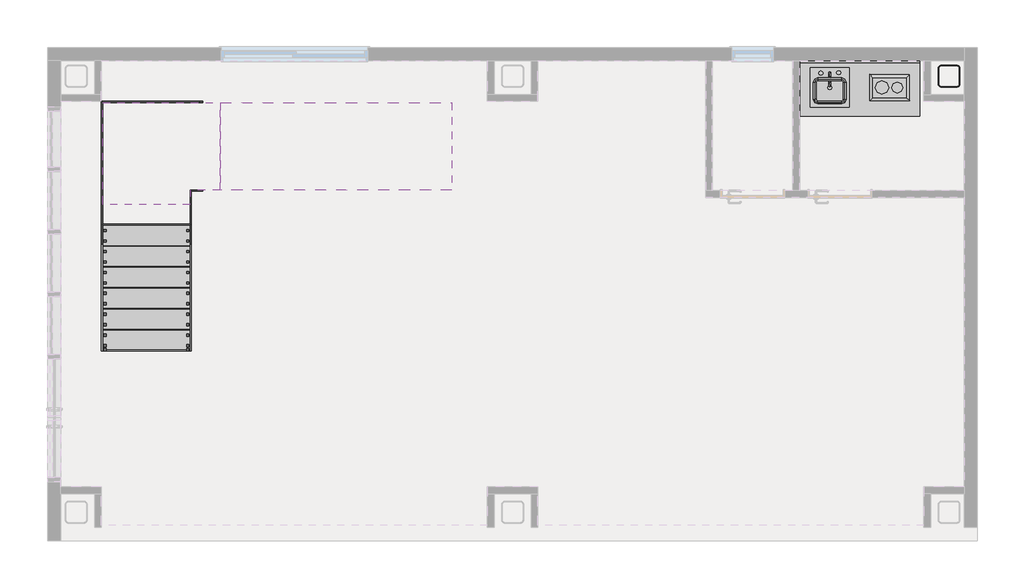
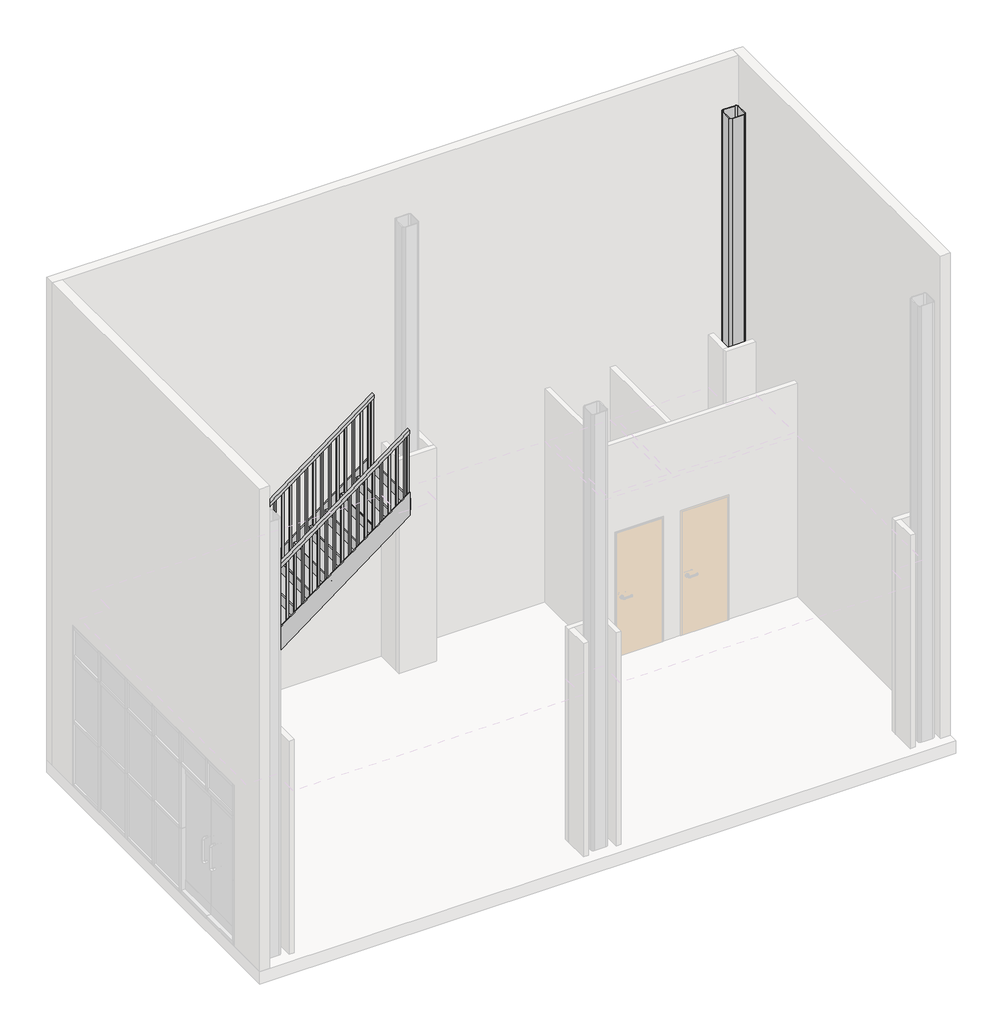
# One storey, part 2 of 2: 7 members, 2 proxies, 2 railings, 2 stair flights, 1 column, 1 flow terminal, 1 furniture element, 1 slab.
"""IFC4 building model written with IfcOpenShell, lengths in millimetres."""

from ifc_helpers import new_model, si_unit, frame, origin, place, context, project, spatial, polyline, outline, extrude, faceted_brep, transform, mapped, element, save
from components import proxy_1372mm_902c12d3, proxy_305_x_457mm_75991893, hss250x250x12_d809ddac, flow_terminal_450_x_450mm_65598b4f, furniture_600mm_61525606, slab_593adf1e, stair_flight_b28b8e51, stair_flight_15dfc8d3

model = new_model("IFC4")

# Units and contexts
model_context = context("Model", 3, world=origin())
ifc_project = project(units=[si_unit("LENGTHUNIT", "METRE", prefix="MILLI")], contexts=[model_context])

# Site, building, storey
site = spatial("IfcSite", under=ifc_project)
building = spatial("IfcBuilding", under=site)
storey = spatial("IfcBuildingStorey", under=building, Name="1階", Elevation=200.0)

# Proxies
placement = place(None, origin())
proxy_1372mm_shape = proxy_1372mm_902c12d3(model_context)
element("IfcBuildingElementProxy", 1, Name="システムキッチン - スケール(小) - 3D : 1372mm", ObjectType="システムキッチン - スケール(小) - 3D : 1372mm", at=placement, inside=storey, context=model_context, shape_type="MappedRepresentation", body=[
    mapped(proxy_1372mm_shape, transform((3909.3742386, 2761.0382733, 200.0), x_axis=(1.0, 0.0, 0.0), y_axis=(0.0, 1.0, 0.0), z_axis=(0.0, 0.0, 1.0))),
])
proxy_305_x_457mm_shape = proxy_305_x_457mm_75991893(model_context)
element("IfcBuildingElementProxy", 2, Name="レンジ台-2 ユニット : 305 x 457mm", ObjectType="レンジ台-2 ユニット : 305 x 457mm", at=placement, inside=storey, context=model_context, shape_type="MappedRepresentation", body=[
    mapped(proxy_305_x_457mm_shape, transform((4301.3367391, 2379.8382733, 240.0), x_axis=(0.0, 1.0, 0.0), y_axis=(-1.0, 0.0, 0.0), z_axis=(0.0, 0.0, 1.0))),
])

# Column
hss250x250x12_shape = hss250x250x12_d809ddac(model_context)
element("IfcColumn", 3, ObjectType="正方型鋼管-柱 : HSS250x250x12", at=placement, inside=storey, context=model_context, shape_type="MappedRepresentation", body=[
    mapped(hss250x250x12_shape, transform((4952.6119436, 2586.0382733, 0.0), x_axis=(-1.0, 0.0, 0.0), y_axis=(0.0, -1.0, 0.0), z_axis=(0.0, 0.0, 1.0))),
])

# Flow terminal
flow_terminal_450_x_450mm_shape = flow_terminal_450_x_450mm_65598b4f(model_context)
element("IfcFlowTerminal", 4, ObjectType="シンク キッチン - アイランド : 450 x 450mm", at=placement, inside=storey, context=model_context, shape_type="MappedRepresentation", body=[
    mapped(flow_terminal_450_x_450mm_shape, transform((3569.422703, 2453.6928722, 240.0), x_axis=(1.0, 0.0, 0.0), y_axis=(0.0, 1.0, 0.0), z_axis=(0.0, 0.0, 1.0))),
])

# Furniture
furniture_600mm_shape = furniture_600mm_61525606(model_context)
element("IfcFurniture", 5, ObjectType="カウンタ シンク開口付 : 600mm", at=placement, inside=storey, context=model_context, shape_type="MappedRepresentation", body=[
    mapped(furniture_600mm_shape, transform((4442.5742386, 2761.0382733, 240.0), x_axis=(1.0, 0.0, 0.0), y_axis=(0.0, 1.0, 0.0), z_axis=(0.0, 0.0, 1.0))),
])

# Members
element("IfcMember", 6, ObjectType="側桁 - メタル - 15 mm 幅 50 mm 奥行き", at=placement, inside=storey, context=model_context, shape_type="SweptSolid", body=[
    extrude(outline(polyline([(-563.9617267, 200.0), (-563.9617267, 486.25), (1021.0382733, 1675.0), (1121.0382733, 1375.0), (-445.6283934, 200.0), (-563.9617267, 200.0)])), frame((-4757.8880564, 0.0, 0.0), z_axis=(1.0, 0.0, 0.0), x_axis=(0.0, 1.0, 0.0)), (0.0, 0.0, 1.0), 15.0),
])
element("IfcMember", 7, ObjectType="側桁 - メタル - 15 mm 幅 50 mm 奥行き", at=placement, inside=storey, context=model_context, shape_type="SweptSolid", body=[
    extrude(outline(polyline([(-563.9617267, 200.0), (-563.9617267, 486.25), (1021.0382733, 1675.0), (1121.0382733, 1375.0), (-445.6283934, 200.0), (-563.9617267, 200.0)])), frame((-3742.8880564, 0.0, 0.0), z_axis=(1.0, 0.0, 0.0), x_axis=(0.0, 1.0, 0.0)), (0.0, 0.0, 1.0), 15.0),
])
element("IfcMember", 8, ObjectType="側桁 - メタル - 15 mm 幅 50 mm 奥行き", at=placement, inside=storey, context=model_context, shape_type="SweptSolid", body=[
    extrude(outline(polyline([(1675.0, -3732.3880564), (1375.0, -3632.3880564), (3531.25, -757.3880564), (3906.25, -757.3880564), (1675.0, -3732.3880564)])), frame((0.0, 2281.5382733, 0.0), z_axis=(0.0, 1.0, 0.0), x_axis=(0.0, 0.0, 1.0)), (0.0, 0.0, 1.0), 15.0),
])
element("IfcMember", 9, ObjectType="側桁 - メタル - 15 mm 幅 50 mm 奥行き", at=placement, inside=storey, context=model_context, shape_type="SweptSolid", body=[
    extrude(outline(polyline([(1678.375, -3727.8880564), (1375.0, -3727.8880564), (1375.0, -3632.3880564), (3531.25, -757.3880564), (3906.25, -757.3880564), (1678.375, -3727.8880564)])), frame((0.0, 1266.5382733, 0.0), z_axis=(0.0, 1.0, 0.0), x_axis=(0.0, 0.0, 1.0)), (0.0, 0.0, 1.0), 15.0),
])
element("IfcMember", 10, ObjectType="側桁 - メタル - 15 mm 幅 50 mm 奥行き", at=placement, inside=storey, context=model_context, shape_type="Brep", body=[
    faceted_brep([(-3732.3880564, 2281.5382733, 1675.0), (-3732.3880564, 2296.5382733, 1675.0), (-4757.8880564, 2296.5382733, 1675.0), (-4742.8880564, 2281.5382733, 1675.0), (-3632.3880564, 2281.5382733, 1375.0), (-4742.8880564, 2281.5382733, 1375.0), (-3632.3880564, 2296.5382733, 1375.0), (-4757.8880564, 2296.5382733, 1375.0)], [[[0, 1, 2, 3]], [[4, 0, 3, 5]], [[6, 4, 5, 7]], [[1, 6, 7, 2]], [[1, 0, 4, 6]], [[2, 7, 5, 3]]]),
])
element("IfcMember", 11, ObjectType="側桁 - メタル - 15 mm 幅 50 mm 奥行き", at=placement, inside=storey, context=model_context, shape_type="Brep", body=[
    faceted_brep([(-4742.8880564, 2281.5382733, 1675.0), (-4757.8880564, 2296.5382733, 1675.0), (-4757.8880564, 1021.0382733, 1675.0), (-4742.8880564, 1021.0382733, 1675.0), (-4742.8880564, 2281.5382733, 1375.0), (-4742.8880564, 1121.0382733, 1375.0), (-4757.8880564, 2296.5382733, 1375.0), (-4757.8880564, 1121.0382733, 1375.0)], [[[0, 1, 2, 3]], [[4, 0, 3, 5]], [[6, 4, 5, 7]], [[1, 6, 7, 2]], [[1, 0, 4, 6]], [[2, 7, 5, 3]]]),
])
element("IfcMember", 12, ObjectType="側桁 - メタル - 15 mm 幅 50 mm 奥行き", at=placement, inside=storey, context=model_context, shape_type="SweptSolid", body=[
    extrude(outline(polyline([(1121.0382733, 1375.0), (1021.0382733, 1675.0), (1281.5382733, 1675.0), (1281.5382733, 1375.0), (1121.0382733, 1375.0)])), frame((-3742.8880564, 0.0, 0.0), z_axis=(1.0, 0.0, 0.0), x_axis=(0.0, 1.0, 0.0)), (0.0, 0.0, 1.0), 15.0),
])

# Railings
element("IfcRailing", 13, ObjectType="1100mm", at=placement, inside=storey, context=model_context, shape_type="SolidModel", body=[
    faceted_brep([(-3793.2880564, -563.9617267, 1480.0), (-3793.2880564, -563.9617267, 1417.5), (-3743.2880564, -563.9617267, 1417.5), (-3743.2880564, -563.9617267, 1480.0), (-3793.2880564, 1116.0382733, 2740.0), (-3793.2880564, 1132.7049399, 2690.0), (-3743.2880564, 1132.7049399, 2690.0), (-3743.2880564, 1116.0382733, 2740.0), (-3793.2880564, 1331.9382733, 2740.0), (-3793.2880564, 1331.9382733, 2690.0), (-3743.2880564, 1281.9382733, 2690.0), (-3743.2880564, 1281.9382733, 2740.0), (-3637.3880564, 1331.9382733, 2740.0), (-3620.7213898, 1331.9382733, 2690.0), (-3620.7213898, 1281.9382733, 2690.0), (-3637.3880564, 1281.9382733, 2740.0), (-3397.3880564, 1331.9382733, 2920.0), (-3367.3880564, 1331.9382733, 2880.0), (-3367.3880564, 1281.9382733, 2880.0), (-3397.3880564, 1281.9382733, 2920.0), (-757.3880564, 1331.9382733, 4900.0), (-757.3880564, 1281.9382733, 4900.0), (-757.3880564, 1281.9382733, 4837.5), (-757.3880564, 1331.9382733, 4837.5)], [[[0, 1, 2, 3]], [[1, 0, 4, 5]], [[2, 1, 5, 6]], [[3, 2, 6, 7]], [[0, 3, 7, 4]], [[5, 4, 8, 9]], [[6, 5, 9, 10]], [[7, 6, 10, 11]], [[4, 7, 11, 8]], [[9, 8, 12, 13]], [[10, 9, 13, 14]], [[11, 10, 14, 15]], [[8, 11, 15, 12]], [[13, 12, 16, 17]], [[14, 13, 17, 18]], [[15, 14, 18, 19]], [[12, 15, 19, 16]], [[20, 21, 22, 23]], [[17, 16, 20, 23]], [[18, 17, 23, 22]], [[19, 18, 22, 21]], [[16, 19, 21, 20]]]),
    extrude(outline(polyline([(4783.125, -829.8880564), (3620.0, -829.8880564), (3620.0, -804.8880564), (4801.875, -804.8880564), (4783.125, -829.8880564)])), frame((0.0, 1294.4382733, 0.0), z_axis=(0.0, 1.0, 0.0), x_axis=(0.0, 0.0, 1.0)), (0.0, 0.0, 1.0), 25.0),
    extrude(outline(polyline([(4693.125, -949.8880564), (3620.0, -949.8880564), (3620.0, -924.8880564), (4711.875, -924.8880564), (4693.125, -949.8880564)])), frame((0.0, 1294.4382733, 0.0), z_axis=(0.0, 1.0, 0.0), x_axis=(0.0, 0.0, 1.0)), (0.0, 0.0, 1.0), 25.0),
    extrude(outline(polyline([(4603.125, -1069.8880564), (3440.0, -1069.8880564), (3440.0, -1044.8880564), (4621.875, -1044.8880564), (4603.125, -1069.8880564)])), frame((0.0, 1294.4382733, 0.0), z_axis=(0.0, 1.0, 0.0), x_axis=(0.0, 0.0, 1.0)), (0.0, 0.0, 1.0), 25.0),
    extrude(outline(polyline([(4513.125, -1189.8880564), (3440.0, -1189.8880564), (3440.0, -1164.8880564), (4531.875, -1164.8880564), (4513.125, -1189.8880564)])), frame((0.0, 1294.4382733, 0.0), z_axis=(0.0, 1.0, 0.0), x_axis=(0.0, 0.0, 1.0)), (0.0, 0.0, 1.0), 25.0),
    extrude(outline(polyline([(4423.125, -1309.8880564), (3260.0, -1309.8880564), (3260.0, -1284.8880564), (4441.875, -1284.8880564), (4423.125, -1309.8880564)])), frame((0.0, 1294.4382733, 0.0), z_axis=(0.0, 1.0, 0.0), x_axis=(0.0, 0.0, 1.0)), (0.0, 0.0, 1.0), 25.0),
    extrude(outline(polyline([(4333.125, -1429.8880564), (3260.0, -1429.8880564), (3260.0, -1404.8880564), (4351.875, -1404.8880564), (4333.125, -1429.8880564)])), frame((0.0, 1294.4382733, 0.0), z_axis=(0.0, 1.0, 0.0), x_axis=(0.0, 0.0, 1.0)), (0.0, 0.0, 1.0), 25.0),
    extrude(outline(polyline([(4243.125, -1549.8880564), (3080.0, -1549.8880564), (3080.0, -1524.8880564), (4261.875, -1524.8880564), (4243.125, -1549.8880564)])), frame((0.0, 1294.4382733, 0.0), z_axis=(0.0, 1.0, 0.0), x_axis=(0.0, 0.0, 1.0)), (0.0, 0.0, 1.0), 25.0),
    extrude(outline(polyline([(4153.125, -1669.8880564), (3080.0, -1669.8880564), (3080.0, -1644.8880564), (4171.875, -1644.8880564), (4153.125, -1669.8880564)])), frame((0.0, 1294.4382733, 0.0), z_axis=(0.0, 1.0, 0.0), x_axis=(0.0, 0.0, 1.0)), (0.0, 0.0, 1.0), 25.0),
    extrude(outline(polyline([(4063.125, -1789.8880564), (2900.0, -1789.8880564), (2900.0, -1764.8880564), (4081.875, -1764.8880564), (4063.125, -1789.8880564)])), frame((0.0, 1294.4382733, 0.0), z_axis=(0.0, 1.0, 0.0), x_axis=(0.0, 0.0, 1.0)), (0.0, 0.0, 1.0), 25.0),
    extrude(outline(polyline([(3973.125, -1909.8880564), (2900.0, -1909.8880564), (2900.0, -1884.8880564), (3991.875, -1884.8880564), (3973.125, -1909.8880564)])), frame((0.0, 1294.4382733, 0.0), z_axis=(0.0, 1.0, 0.0), x_axis=(0.0, 0.0, 1.0)), (0.0, 0.0, 1.0), 25.0),
    extrude(outline(polyline([(3883.125, -2029.8880564), (2720.0, -2029.8880564), (2720.0, -2004.8880564), (3901.875, -2004.8880564), (3883.125, -2029.8880564)])), frame((0.0, 1294.4382733, 0.0), z_axis=(0.0, 1.0, 0.0), x_axis=(0.0, 0.0, 1.0)), (0.0, 0.0, 1.0), 25.0),
    extrude(outline(polyline([(3793.125, -2149.8880564), (2720.0, -2149.8880564), (2720.0, -2124.8880564), (3811.875, -2124.8880564), (3793.125, -2149.8880564)])), frame((0.0, 1294.4382733, 0.0), z_axis=(0.0, 1.0, 0.0), x_axis=(0.0, 0.0, 1.0)), (0.0, 0.0, 1.0), 25.0),
    extrude(outline(polyline([(3703.125, -2269.8880564), (2540.0, -2269.8880564), (2540.0, -2244.8880564), (3721.875, -2244.8880564), (3703.125, -2269.8880564)])), frame((0.0, 1294.4382733, 0.0), z_axis=(0.0, 1.0, 0.0), x_axis=(0.0, 0.0, 1.0)), (0.0, 0.0, 1.0), 25.0),
    extrude(outline(polyline([(3613.125, -2389.8880564), (2540.0, -2389.8880564), (2540.0, -2364.8880564), (3631.875, -2364.8880564), (3613.125, -2389.8880564)])), frame((0.0, 1294.4382733, 0.0), z_axis=(0.0, 1.0, 0.0), x_axis=(0.0, 0.0, 1.0)), (0.0, 0.0, 1.0), 25.0),
    extrude(outline(polyline([(3523.125, -2509.8880564), (2360.0, -2509.8880564), (2360.0, -2484.8880564), (3541.875, -2484.8880564), (3523.125, -2509.8880564)])), frame((0.0, 1294.4382733, 0.0), z_axis=(0.0, 1.0, 0.0), x_axis=(0.0, 0.0, 1.0)), (0.0, 0.0, 1.0), 25.0),
    extrude(outline(polyline([(3433.125, -2629.8880564), (2360.0, -2629.8880564), (2360.0, -2604.8880564), (3451.875, -2604.8880564), (3433.125, -2629.8880564)])), frame((0.0, 1294.4382733, 0.0), z_axis=(0.0, 1.0, 0.0), x_axis=(0.0, 0.0, 1.0)), (0.0, 0.0, 1.0), 25.0),
    extrude(outline(polyline([(3343.125, -2749.8880564), (2180.0, -2749.8880564), (2180.0, -2724.8880564), (3361.875, -2724.8880564), (3343.125, -2749.8880564)])), frame((0.0, 1294.4382733, 0.0), z_axis=(0.0, 1.0, 0.0), x_axis=(0.0, 0.0, 1.0)), (0.0, 0.0, 1.0), 25.0),
    extrude(outline(polyline([(3253.125, -2869.8880564), (2180.0, -2869.8880564), (2180.0, -2844.8880564), (3271.875, -2844.8880564), (3253.125, -2869.8880564)])), frame((0.0, 1294.4382733, 0.0), z_axis=(0.0, 1.0, 0.0), x_axis=(0.0, 0.0, 1.0)), (0.0, 0.0, 1.0), 25.0),
    extrude(outline(polyline([(3163.125, -2989.8880564), (2000.0, -2989.8880564), (2000.0, -2964.8880564), (3181.875, -2964.8880564), (3163.125, -2989.8880564)])), frame((0.0, 1294.4382733, 0.0), z_axis=(0.0, 1.0, 0.0), x_axis=(0.0, 0.0, 1.0)), (0.0, 0.0, 1.0), 25.0),
    extrude(outline(polyline([(3073.125, -3109.8880564), (2000.0, -3109.8880564), (2000.0, -3084.8880564), (3091.875, -3084.8880564), (3073.125, -3109.8880564)])), frame((0.0, 1294.4382733, 0.0), z_axis=(0.0, 1.0, 0.0), x_axis=(0.0, 0.0, 1.0)), (0.0, 0.0, 1.0), 25.0),
    extrude(outline(polyline([(2983.125, -3229.8880564), (1820.0, -3229.8880564), (1820.0, -3204.8880564), (3001.875, -3204.8880564), (2983.125, -3229.8880564)])), frame((0.0, 1294.4382733, 0.0), z_axis=(0.0, 1.0, 0.0), x_axis=(0.0, 0.0, 1.0)), (0.0, 0.0, 1.0), 25.0),
    extrude(outline(polyline([(2893.125, -3349.8880564), (1820.0, -3349.8880564), (1820.0, -3324.8880564), (2911.875, -3324.8880564), (2893.125, -3349.8880564)])), frame((0.0, 1294.4382733, 0.0), z_axis=(0.0, 1.0, 0.0), x_axis=(0.0, 0.0, 1.0)), (0.0, 0.0, 1.0), 25.0),
    extrude(outline(polyline([(2794.95, -3480.7880564), (1640.0, -3480.7880564), (1640.0, -3455.7880564), (2813.7, -3455.7880564), (2794.95, -3480.7880564)])), frame((0.0, 1294.4382733, 0.0), z_axis=(0.0, 1.0, 0.0), x_axis=(0.0, 0.0, 1.0)), (0.0, 0.0, 1.0), 25.0),
    extrude(outline(polyline([(2704.95, -3600.7880564), (1640.0, -3600.7880564), (1640.0, -3575.7880564), (2723.7, -3575.7880564), (2704.95, -3600.7880564)])), frame((0.0, 1294.4382733, 0.0), z_axis=(0.0, 1.0, 0.0), x_axis=(0.0, 0.0, 1.0)), (0.0, 0.0, 1.0), 25.0),
    extrude(outline(polyline([(-3720.7880564, 1294.4382733), (-3720.7880564, 1319.4382733), (-3695.7880564, 1319.4382733), (-3695.7880564, 1294.4382733), (-3720.7880564, 1294.4382733)])), frame((0.0, 0.0, 1640.0), z_axis=(0.0, 0.0, 1.0), x_axis=(1.0, 0.0, 0.0)), (0.0, 0.0, 1.0), 1050.0),
    extrude(outline(polyline([(-3755.7880564, 1283.5382733), (-3780.7880564, 1283.5382733), (-3780.7880564, 1308.5382733), (-3755.7880564, 1308.5382733), (-3755.7880564, 1283.5382733)])), frame((0.0, 0.0, 1640.0), z_axis=(0.0, 0.0, 1.0), x_axis=(1.0, 0.0, 0.0)), (0.0, 0.0, 1.0), 1050.0),
    extrude(outline(polyline([(-3755.7880564, 1163.5382733), (-3780.7880564, 1163.5382733), (-3780.7880564, 1188.5382733), (-3755.7880564, 1188.5382733), (-3755.7880564, 1163.5382733)])), frame((0.0, 0.0, 1640.0), z_axis=(0.0, 0.0, 1.0), x_axis=(1.0, 0.0, 0.0)), (0.0, 0.0, 1.0), 1050.0),
    extrude(outline(polyline([(1043.5382733, 1460.0), (1043.5382733, 2623.125), (1068.5382733, 2641.875), (1068.5382733, 1460.0), (1043.5382733, 1460.0)])), frame((-3780.7880564, 0.0, 0.0), z_axis=(1.0, 0.0, 0.0), x_axis=(0.0, 1.0, 0.0)), (0.0, 0.0, 1.0), 25.0),
    extrude(outline(polyline([(923.5382733, 1460.0), (923.5382733, 2533.125), (948.5382733, 2551.875), (948.5382733, 1460.0), (923.5382733, 1460.0)])), frame((-3780.7880564, 0.0, 0.0), z_axis=(1.0, 0.0, 0.0), x_axis=(0.0, 1.0, 0.0)), (0.0, 0.0, 1.0), 25.0),
    extrude(outline(polyline([(803.5382733, 1280.0), (803.5382733, 2443.125), (828.5382733, 2461.875), (828.5382733, 1280.0), (803.5382733, 1280.0)])), frame((-3780.7880564, 0.0, 0.0), z_axis=(1.0, 0.0, 0.0), x_axis=(0.0, 1.0, 0.0)), (0.0, 0.0, 1.0), 25.0),
    extrude(outline(polyline([(683.5382733, 1280.0), (683.5382733, 2353.125), (708.5382733, 2371.875), (708.5382733, 1280.0), (683.5382733, 1280.0)])), frame((-3780.7880564, 0.0, 0.0), z_axis=(1.0, 0.0, 0.0), x_axis=(0.0, 1.0, 0.0)), (0.0, 0.0, 1.0), 25.0),
    extrude(outline(polyline([(563.5382733, 1100.0), (563.5382733, 2263.125), (588.5382733, 2281.875), (588.5382733, 1100.0), (563.5382733, 1100.0)])), frame((-3780.7880564, 0.0, 0.0), z_axis=(1.0, 0.0, 0.0), x_axis=(0.0, 1.0, 0.0)), (0.0, 0.0, 1.0), 25.0),
    extrude(outline(polyline([(443.5382733, 1100.0), (443.5382733, 2173.125), (468.5382733, 2191.875), (468.5382733, 1100.0), (443.5382733, 1100.0)])), frame((-3780.7880564, 0.0, 0.0), z_axis=(1.0, 0.0, 0.0), x_axis=(0.0, 1.0, 0.0)), (0.0, 0.0, 1.0), 25.0),
    extrude(outline(polyline([(323.5382733, 920.0), (323.5382733, 2083.125), (348.5382733, 2101.875), (348.5382733, 920.0), (323.5382733, 920.0)])), frame((-3780.7880564, 0.0, 0.0), z_axis=(1.0, 0.0, 0.0), x_axis=(0.0, 1.0, 0.0)), (0.0, 0.0, 1.0), 25.0),
    extrude(outline(polyline([(203.5382733, 920.0), (203.5382733, 1993.125), (228.5382733, 2011.875), (228.5382733, 920.0), (203.5382733, 920.0)])), frame((-3780.7880564, 0.0, 0.0), z_axis=(1.0, 0.0, 0.0), x_axis=(0.0, 1.0, 0.0)), (0.0, 0.0, 1.0), 25.0),
    extrude(outline(polyline([(83.5382733, 740.0), (83.5382733, 1903.125), (108.5382733, 1921.875), (108.5382733, 740.0), (83.5382733, 740.0)])), frame((-3780.7880564, 0.0, 0.0), z_axis=(1.0, 0.0, 0.0), x_axis=(0.0, 1.0, 0.0)), (0.0, 0.0, 1.0), 25.0),
    extrude(outline(polyline([(-36.4617267, 740.0), (-36.4617267, 1813.125), (-11.4617267, 1831.875), (-11.4617267, 740.0), (-36.4617267, 740.0)])), frame((-3780.7880564, 0.0, 0.0), z_axis=(1.0, 0.0, 0.0), x_axis=(0.0, 1.0, 0.0)), (0.0, 0.0, 1.0), 25.0),
    extrude(outline(polyline([(-156.4617267, 560.0), (-156.4617267, 1723.125), (-131.4617267, 1741.875), (-131.4617267, 560.0), (-156.4617267, 560.0)])), frame((-3780.7880564, 0.0, 0.0), z_axis=(1.0, 0.0, 0.0), x_axis=(0.0, 1.0, 0.0)), (0.0, 0.0, 1.0), 25.0),
    extrude(outline(polyline([(-276.4617267, 560.0), (-276.4617267, 1633.125), (-251.4617267, 1651.875), (-251.4617267, 560.0), (-276.4617267, 560.0)])), frame((-3780.7880564, 0.0, 0.0), z_axis=(1.0, 0.0, 0.0), x_axis=(0.0, 1.0, 0.0)), (0.0, 0.0, 1.0), 25.0),
    extrude(outline(polyline([(-396.4617267, 380.0), (-396.4617267, 1543.125), (-371.4617267, 1561.875), (-371.4617267, 380.0), (-396.4617267, 380.0)])), frame((-3780.7880564, 0.0, 0.0), z_axis=(1.0, 0.0, 0.0), x_axis=(0.0, 1.0, 0.0)), (0.0, 0.0, 1.0), 25.0),
    extrude(outline(polyline([(-516.4617267, 380.0), (-516.4617267, 1453.125), (-491.4617267, 1471.875), (-491.4617267, 380.0), (-516.4617267, 380.0)])), frame((-3780.7880564, 0.0, 0.0), z_axis=(1.0, 0.0, 0.0), x_axis=(0.0, 1.0, 0.0)), (0.0, 0.0, 1.0), 25.0),
    extrude(outline(polyline([(2848.125, -3409.8880564), (1640.0, -3409.8880564), (1640.0, -3384.8880564), (2866.875, -3384.8880564), (2848.125, -3409.8880564)])), frame((0.0, 1294.4382733, 0.0), z_axis=(0.0, 1.0, 0.0), x_axis=(0.0, 0.0, 1.0)), (0.0, 0.0, 1.0), 25.0),
    extrude(outline(polyline([(-3755.7880564, 1294.4382733), (-3780.7880564, 1294.4382733), (-3780.7880564, 1319.4382733), (-3755.7880564, 1319.4382733), (-3755.7880564, 1294.4382733)])), frame((0.0, 0.0, 1640.0), z_axis=(0.0, 0.0, 1.0), x_axis=(1.0, 0.0, 0.0)), (0.0, 0.0, 1.0), 1050.0),
    extrude(outline(polyline([(1103.5382733, 1640.0), (1103.5382733, 2668.125), (1128.5382733, 2686.875), (1128.5382733, 1640.0), (1103.5382733, 1640.0)])), frame((-3780.7880564, 0.0, 0.0), z_axis=(1.0, 0.0, 0.0), x_axis=(0.0, 1.0, 0.0)), (0.0, 0.0, 1.0), 25.0),
    extrude(outline(polyline([(4818.75, -782.3880564), (3620.0, -782.3880564), (3620.0, -757.3880564), (4837.5, -757.3880564), (4818.75, -782.3880564)])), frame((0.0, 1294.4382733, 0.0), z_axis=(0.0, 1.0, 0.0), x_axis=(0.0, 0.0, 1.0)), (0.0, 0.0, 1.0), 25.0),
    extrude(outline(polyline([(-563.9617267, 380.0), (-563.9617267, 1417.5), (-538.9617267, 1436.25), (-538.9617267, 380.0), (-563.9617267, 380.0)])), frame((-3780.7880564, 0.0, 0.0), z_axis=(1.0, 0.0, 0.0), x_axis=(0.0, 1.0, 0.0)), (0.0, 0.0, 1.0), 25.0),
])
element("IfcRailing", 14, ObjectType="1100mm", at=placement, inside=storey, context=model_context, shape_type="SolidModel", body=[
    faceted_brep([(-4742.4880564, -563.9617267, 1480.0), (-4742.4880564, -563.9617267, 1417.5), (-4692.4880564, -563.9617267, 1417.5), (-4692.4880564, -563.9617267, 1480.0), (-4742.4880564, 1116.0382733, 2740.0), (-4742.4880564, 1132.7049399, 2690.0), (-4692.4880564, 1132.7049399, 2690.0), (-4692.4880564, 1116.0382733, 2740.0), (-4742.4880564, 2281.1382733, 2740.0), (-4742.4880564, 2281.1382733, 2690.0), (-4692.4880564, 2231.1382733, 2690.0), (-4692.4880564, 2231.1382733, 2740.0), (-3637.3880564, 2281.1382733, 2740.0), (-3620.7213898, 2281.1382733, 2690.0), (-3620.7213898, 2231.1382733, 2690.0), (-3637.3880564, 2231.1382733, 2740.0), (-3397.3880564, 2281.1382733, 2920.0), (-3367.3880564, 2281.1382733, 2880.0), (-3367.3880564, 2231.1382733, 2880.0), (-3397.3880564, 2231.1382733, 2920.0), (-757.3880564, 2281.1382733, 4900.0), (-757.3880564, 2231.1382733, 4900.0), (-757.3880564, 2231.1382733, 4837.5), (-757.3880564, 2281.1382733, 4837.5)], [[[0, 1, 2, 3]], [[1, 0, 4, 5]], [[2, 1, 5, 6]], [[3, 2, 6, 7]], [[0, 3, 7, 4]], [[5, 4, 8, 9]], [[6, 5, 9, 10]], [[7, 6, 10, 11]], [[4, 7, 11, 8]], [[9, 8, 12, 13]], [[10, 9, 13, 14]], [[11, 10, 14, 15]], [[8, 11, 15, 12]], [[13, 12, 16, 17]], [[14, 13, 17, 18]], [[15, 14, 18, 19]], [[12, 15, 19, 16]], [[20, 21, 22, 23]], [[17, 16, 20, 23]], [[18, 17, 23, 22]], [[19, 18, 22, 21]], [[16, 19, 21, 20]]]),
    extrude(outline(polyline([(3620.0, -829.8880564), (3620.0, -804.8880564), (4801.875, -804.8880564), (4783.125, -829.8880564), (3620.0, -829.8880564)])), frame((0.0, 2243.6382733, 0.0), z_axis=(0.0, 1.0, 0.0), x_axis=(0.0, 0.0, 1.0)), (0.0, 0.0, 1.0), 25.0),
    extrude(outline(polyline([(3620.0, -949.8880564), (3620.0, -924.8880564), (4711.875, -924.8880564), (4693.125, -949.8880564), (3620.0, -949.8880564)])), frame((0.0, 2243.6382733, 0.0), z_axis=(0.0, 1.0, 0.0), x_axis=(0.0, 0.0, 1.0)), (0.0, 0.0, 1.0), 25.0),
    extrude(outline(polyline([(3440.0, -1069.8880564), (3440.0, -1044.8880564), (4621.875, -1044.8880564), (4603.125, -1069.8880564), (3440.0, -1069.8880564)])), frame((0.0, 2243.6382733, 0.0), z_axis=(0.0, 1.0, 0.0), x_axis=(0.0, 0.0, 1.0)), (0.0, 0.0, 1.0), 25.0),
    extrude(outline(polyline([(3440.0, -1189.8880564), (3440.0, -1164.8880564), (4531.875, -1164.8880564), (4513.125, -1189.8880564), (3440.0, -1189.8880564)])), frame((0.0, 2243.6382733, 0.0), z_axis=(0.0, 1.0, 0.0), x_axis=(0.0, 0.0, 1.0)), (0.0, 0.0, 1.0), 25.0),
    extrude(outline(polyline([(3260.0, -1309.8880564), (3260.0, -1284.8880564), (4441.875, -1284.8880564), (4423.125, -1309.8880564), (3260.0, -1309.8880564)])), frame((0.0, 2243.6382733, 0.0), z_axis=(0.0, 1.0, 0.0), x_axis=(0.0, 0.0, 1.0)), (0.0, 0.0, 1.0), 25.0),
    extrude(outline(polyline([(3260.0, -1429.8880564), (3260.0, -1404.8880564), (4351.875, -1404.8880564), (4333.125, -1429.8880564), (3260.0, -1429.8880564)])), frame((0.0, 2243.6382733, 0.0), z_axis=(0.0, 1.0, 0.0), x_axis=(0.0, 0.0, 1.0)), (0.0, 0.0, 1.0), 25.0),
    extrude(outline(polyline([(3080.0, -1549.8880564), (3080.0, -1524.8880564), (4261.875, -1524.8880564), (4243.125, -1549.8880564), (3080.0, -1549.8880564)])), frame((0.0, 2243.6382733, 0.0), z_axis=(0.0, 1.0, 0.0), x_axis=(0.0, 0.0, 1.0)), (0.0, 0.0, 1.0), 25.0),
    extrude(outline(polyline([(3080.0, -1669.8880564), (3080.0, -1644.8880564), (4171.875, -1644.8880564), (4153.125, -1669.8880564), (3080.0, -1669.8880564)])), frame((0.0, 2243.6382733, 0.0), z_axis=(0.0, 1.0, 0.0), x_axis=(0.0, 0.0, 1.0)), (0.0, 0.0, 1.0), 25.0),
    extrude(outline(polyline([(2900.0, -1789.8880564), (2900.0, -1764.8880564), (4081.875, -1764.8880564), (4063.125, -1789.8880564), (2900.0, -1789.8880564)])), frame((0.0, 2243.6382733, 0.0), z_axis=(0.0, 1.0, 0.0), x_axis=(0.0, 0.0, 1.0)), (0.0, 0.0, 1.0), 25.0),
    extrude(outline(polyline([(2900.0, -1909.8880564), (2900.0, -1884.8880564), (3991.875, -1884.8880564), (3973.125, -1909.8880564), (2900.0, -1909.8880564)])), frame((0.0, 2243.6382733, 0.0), z_axis=(0.0, 1.0, 0.0), x_axis=(0.0, 0.0, 1.0)), (0.0, 0.0, 1.0), 25.0),
    extrude(outline(polyline([(2720.0, -2029.8880564), (2720.0, -2004.8880564), (3901.875, -2004.8880564), (3883.125, -2029.8880564), (2720.0, -2029.8880564)])), frame((0.0, 2243.6382733, 0.0), z_axis=(0.0, 1.0, 0.0), x_axis=(0.0, 0.0, 1.0)), (0.0, 0.0, 1.0), 25.0),
    extrude(outline(polyline([(2720.0, -2149.8880564), (2720.0, -2124.8880564), (3811.875, -2124.8880564), (3793.125, -2149.8880564), (2720.0, -2149.8880564)])), frame((0.0, 2243.6382733, 0.0), z_axis=(0.0, 1.0, 0.0), x_axis=(0.0, 0.0, 1.0)), (0.0, 0.0, 1.0), 25.0),
    extrude(outline(polyline([(2540.0, -2269.8880564), (2540.0, -2244.8880564), (3721.875, -2244.8880564), (3703.125, -2269.8880564), (2540.0, -2269.8880564)])), frame((0.0, 2243.6382733, 0.0), z_axis=(0.0, 1.0, 0.0), x_axis=(0.0, 0.0, 1.0)), (0.0, 0.0, 1.0), 25.0),
    extrude(outline(polyline([(2540.0, -2389.8880564), (2540.0, -2364.8880564), (3631.875, -2364.8880564), (3613.125, -2389.8880564), (2540.0, -2389.8880564)])), frame((0.0, 2243.6382733, 0.0), z_axis=(0.0, 1.0, 0.0), x_axis=(0.0, 0.0, 1.0)), (0.0, 0.0, 1.0), 25.0),
    extrude(outline(polyline([(2360.0, -2509.8880564), (2360.0, -2484.8880564), (3541.875, -2484.8880564), (3523.125, -2509.8880564), (2360.0, -2509.8880564)])), frame((0.0, 2243.6382733, 0.0), z_axis=(0.0, 1.0, 0.0), x_axis=(0.0, 0.0, 1.0)), (0.0, 0.0, 1.0), 25.0),
    extrude(outline(polyline([(2360.0, -2629.8880564), (2360.0, -2604.8880564), (3451.875, -2604.8880564), (3433.125, -2629.8880564), (2360.0, -2629.8880564)])), frame((0.0, 2243.6382733, 0.0), z_axis=(0.0, 1.0, 0.0), x_axis=(0.0, 0.0, 1.0)), (0.0, 0.0, 1.0), 25.0),
    extrude(outline(polyline([(2180.0, -2749.8880564), (2180.0, -2724.8880564), (3361.875, -2724.8880564), (3343.125, -2749.8880564), (2180.0, -2749.8880564)])), frame((0.0, 2243.6382733, 0.0), z_axis=(0.0, 1.0, 0.0), x_axis=(0.0, 0.0, 1.0)), (0.0, 0.0, 1.0), 25.0),
    extrude(outline(polyline([(2180.0, -2869.8880564), (2180.0, -2844.8880564), (3271.875, -2844.8880564), (3253.125, -2869.8880564), (2180.0, -2869.8880564)])), frame((0.0, 2243.6382733, 0.0), z_axis=(0.0, 1.0, 0.0), x_axis=(0.0, 0.0, 1.0)), (0.0, 0.0, 1.0), 25.0),
    extrude(outline(polyline([(2000.0, -2989.8880564), (2000.0, -2964.8880564), (3181.875, -2964.8880564), (3163.125, -2989.8880564), (2000.0, -2989.8880564)])), frame((0.0, 2243.6382733, 0.0), z_axis=(0.0, 1.0, 0.0), x_axis=(0.0, 0.0, 1.0)), (0.0, 0.0, 1.0), 25.0),
    extrude(outline(polyline([(2000.0, -3109.8880564), (2000.0, -3084.8880564), (3091.875, -3084.8880564), (3073.125, -3109.8880564), (2000.0, -3109.8880564)])), frame((0.0, 2243.6382733, 0.0), z_axis=(0.0, 1.0, 0.0), x_axis=(0.0, 0.0, 1.0)), (0.0, 0.0, 1.0), 25.0),
    extrude(outline(polyline([(1820.0, -3229.8880564), (1820.0, -3204.8880564), (3001.875, -3204.8880564), (2983.125, -3229.8880564), (1820.0, -3229.8880564)])), frame((0.0, 2243.6382733, 0.0), z_axis=(0.0, 1.0, 0.0), x_axis=(0.0, 0.0, 1.0)), (0.0, 0.0, 1.0), 25.0),
    extrude(outline(polyline([(1820.0, -3349.8880564), (1820.0, -3324.8880564), (2911.875, -3324.8880564), (2893.125, -3349.8880564), (1820.0, -3349.8880564)])), frame((0.0, 2243.6382733, 0.0), z_axis=(0.0, 1.0, 0.0), x_axis=(0.0, 0.0, 1.0)), (0.0, 0.0, 1.0), 25.0),
    extrude(outline(polyline([(1640.0, -3469.9880564), (1640.0, -3444.9880564), (2821.8, -3444.9880564), (2803.05, -3469.9880564), (1640.0, -3469.9880564)])), frame((0.0, 2243.6382733, 0.0), z_axis=(0.0, 1.0, 0.0), x_axis=(0.0, 0.0, 1.0)), (0.0, 0.0, 1.0), 25.0),
    extrude(outline(polyline([(1640.0, -3589.9880564), (1640.0, -3564.9880564), (2731.8, -3564.9880564), (2713.05, -3589.9880564), (1640.0, -3589.9880564)])), frame((0.0, 2243.6382733, 0.0), z_axis=(0.0, 1.0, 0.0), x_axis=(0.0, 0.0, 1.0)), (0.0, 0.0, 1.0), 25.0),
    extrude(outline(polyline([(-3709.9880564, 2268.6382733), (-3684.9880564, 2268.6382733), (-3684.9880564, 2243.6382733), (-3709.9880564, 2243.6382733), (-3709.9880564, 2268.6382733)])), frame((0.0, 0.0, 1640.0), z_axis=(0.0, 0.0, 1.0), x_axis=(1.0, 0.0, 0.0)), (0.0, 0.0, 1.0), 1050.0),
    extrude(outline(polyline([(-3829.9880564, 2268.6382733), (-3804.9880564, 2268.6382733), (-3804.9880564, 2243.6382733), (-3829.9880564, 2243.6382733), (-3829.9880564, 2268.6382733)])), frame((0.0, 0.0, 1640.0), z_axis=(0.0, 0.0, 1.0), x_axis=(1.0, 0.0, 0.0)), (0.0, 0.0, 1.0), 1050.0),
    extrude(outline(polyline([(-3949.9880564, 2268.6382733), (-3924.9880564, 2268.6382733), (-3924.9880564, 2243.6382733), (-3949.9880564, 2243.6382733), (-3949.9880564, 2268.6382733)])), frame((0.0, 0.0, 1640.0), z_axis=(0.0, 0.0, 1.0), x_axis=(1.0, 0.0, 0.0)), (0.0, 0.0, 1.0), 1050.0),
    extrude(outline(polyline([(-4069.9880564, 2268.6382733), (-4044.9880564, 2268.6382733), (-4044.9880564, 2243.6382733), (-4069.9880564, 2243.6382733), (-4069.9880564, 2268.6382733)])), frame((0.0, 0.0, 1640.0), z_axis=(0.0, 0.0, 1.0), x_axis=(1.0, 0.0, 0.0)), (0.0, 0.0, 1.0), 1050.0),
    extrude(outline(polyline([(-4189.9880564, 2268.6382733), (-4164.9880564, 2268.6382733), (-4164.9880564, 2243.6382733), (-4189.9880564, 2243.6382733), (-4189.9880564, 2268.6382733)])), frame((0.0, 0.0, 1640.0), z_axis=(0.0, 0.0, 1.0), x_axis=(1.0, 0.0, 0.0)), (0.0, 0.0, 1.0), 1050.0),
    extrude(outline(polyline([(-4309.9880564, 2268.6382733), (-4284.9880564, 2268.6382733), (-4284.9880564, 2243.6382733), (-4309.9880564, 2243.6382733), (-4309.9880564, 2268.6382733)])), frame((0.0, 0.0, 1640.0), z_axis=(0.0, 0.0, 1.0), x_axis=(1.0, 0.0, 0.0)), (0.0, 0.0, 1.0), 1050.0),
    extrude(outline(polyline([(-4429.9880564, 2268.6382733), (-4404.9880564, 2268.6382733), (-4404.9880564, 2243.6382733), (-4429.9880564, 2243.6382733), (-4429.9880564, 2268.6382733)])), frame((0.0, 0.0, 1640.0), z_axis=(0.0, 0.0, 1.0), x_axis=(1.0, 0.0, 0.0)), (0.0, 0.0, 1.0), 1050.0),
    extrude(outline(polyline([(-4549.9880564, 2268.6382733), (-4524.9880564, 2268.6382733), (-4524.9880564, 2243.6382733), (-4549.9880564, 2243.6382733), (-4549.9880564, 2268.6382733)])), frame((0.0, 0.0, 1640.0), z_axis=(0.0, 0.0, 1.0), x_axis=(1.0, 0.0, 0.0)), (0.0, 0.0, 1.0), 1050.0),
    extrude(outline(polyline([(-4669.9880564, 2268.6382733), (-4644.9880564, 2268.6382733), (-4644.9880564, 2243.6382733), (-4669.9880564, 2243.6382733), (-4669.9880564, 2268.6382733)])), frame((0.0, 0.0, 1640.0), z_axis=(0.0, 0.0, 1.0), x_axis=(1.0, 0.0, 0.0)), (0.0, 0.0, 1.0), 1050.0),
    extrude(outline(polyline([(-4729.9880564, 2243.5382733), (-4729.9880564, 2268.5382733), (-4704.9880564, 2268.5382733), (-4704.9880564, 2243.5382733), (-4729.9880564, 2243.5382733)])), frame((0.0, 0.0, 1640.0), z_axis=(0.0, 0.0, 1.0), x_axis=(1.0, 0.0, 0.0)), (0.0, 0.0, 1.0), 1050.0),
    extrude(outline(polyline([(-4729.9880564, 2123.5382733), (-4729.9880564, 2148.5382733), (-4704.9880564, 2148.5382733), (-4704.9880564, 2123.5382733), (-4729.9880564, 2123.5382733)])), frame((0.0, 0.0, 1640.0), z_axis=(0.0, 0.0, 1.0), x_axis=(1.0, 0.0, 0.0)), (0.0, 0.0, 1.0), 1050.0),
    extrude(outline(polyline([(-4729.9880564, 2003.5382733), (-4729.9880564, 2028.5382733), (-4704.9880564, 2028.5382733), (-4704.9880564, 2003.5382733), (-4729.9880564, 2003.5382733)])), frame((0.0, 0.0, 1640.0), z_axis=(0.0, 0.0, 1.0), x_axis=(1.0, 0.0, 0.0)), (0.0, 0.0, 1.0), 1050.0),
    extrude(outline(polyline([(-4729.9880564, 1883.5382733), (-4729.9880564, 1908.5382733), (-4704.9880564, 1908.5382733), (-4704.9880564, 1883.5382733), (-4729.9880564, 1883.5382733)])), frame((0.0, 0.0, 1640.0), z_axis=(0.0, 0.0, 1.0), x_axis=(1.0, 0.0, 0.0)), (0.0, 0.0, 1.0), 1050.0),
    extrude(outline(polyline([(-4729.9880564, 1763.5382733), (-4729.9880564, 1788.5382733), (-4704.9880564, 1788.5382733), (-4704.9880564, 1763.5382733), (-4729.9880564, 1763.5382733)])), frame((0.0, 0.0, 1640.0), z_axis=(0.0, 0.0, 1.0), x_axis=(1.0, 0.0, 0.0)), (0.0, 0.0, 1.0), 1050.0),
    extrude(outline(polyline([(-4729.9880564, 1643.5382733), (-4729.9880564, 1668.5382733), (-4704.9880564, 1668.5382733), (-4704.9880564, 1643.5382733), (-4729.9880564, 1643.5382733)])), frame((0.0, 0.0, 1640.0), z_axis=(0.0, 0.0, 1.0), x_axis=(1.0, 0.0, 0.0)), (0.0, 0.0, 1.0), 1050.0),
    extrude(outline(polyline([(-4729.9880564, 1523.5382733), (-4729.9880564, 1548.5382733), (-4704.9880564, 1548.5382733), (-4704.9880564, 1523.5382733), (-4729.9880564, 1523.5382733)])), frame((0.0, 0.0, 1640.0), z_axis=(0.0, 0.0, 1.0), x_axis=(1.0, 0.0, 0.0)), (0.0, 0.0, 1.0), 1050.0),
    extrude(outline(polyline([(-4729.9880564, 1403.5382733), (-4729.9880564, 1428.5382733), (-4704.9880564, 1428.5382733), (-4704.9880564, 1403.5382733), (-4729.9880564, 1403.5382733)])), frame((0.0, 0.0, 1640.0), z_axis=(0.0, 0.0, 1.0), x_axis=(1.0, 0.0, 0.0)), (0.0, 0.0, 1.0), 1050.0),
    extrude(outline(polyline([(-4729.9880564, 1283.5382733), (-4729.9880564, 1308.5382733), (-4704.9880564, 1308.5382733), (-4704.9880564, 1283.5382733), (-4729.9880564, 1283.5382733)])), frame((0.0, 0.0, 1640.0), z_axis=(0.0, 0.0, 1.0), x_axis=(1.0, 0.0, 0.0)), (0.0, 0.0, 1.0), 1050.0),
    extrude(outline(polyline([(-4729.9880564, 1163.5382733), (-4729.9880564, 1188.5382733), (-4704.9880564, 1188.5382733), (-4704.9880564, 1163.5382733), (-4729.9880564, 1163.5382733)])), frame((0.0, 0.0, 1640.0), z_axis=(0.0, 0.0, 1.0), x_axis=(1.0, 0.0, 0.0)), (0.0, 0.0, 1.0), 1050.0),
    extrude(outline(polyline([(1043.5382733, 2623.125), (1068.5382733, 2641.875), (1068.5382733, 1460.0), (1043.5382733, 1460.0), (1043.5382733, 2623.125)])), frame((-4729.9880564, 0.0, 0.0), z_axis=(1.0, 0.0, 0.0), x_axis=(0.0, 1.0, 0.0)), (0.0, 0.0, 1.0), 25.0),
    extrude(outline(polyline([(923.5382733, 2533.125), (948.5382733, 2551.875), (948.5382733, 1460.0), (923.5382733, 1460.0), (923.5382733, 2533.125)])), frame((-4729.9880564, 0.0, 0.0), z_axis=(1.0, 0.0, 0.0), x_axis=(0.0, 1.0, 0.0)), (0.0, 0.0, 1.0), 25.0),
    extrude(outline(polyline([(803.5382733, 2443.125), (828.5382733, 2461.875), (828.5382733, 1280.0), (803.5382733, 1280.0), (803.5382733, 2443.125)])), frame((-4729.9880564, 0.0, 0.0), z_axis=(1.0, 0.0, 0.0), x_axis=(0.0, 1.0, 0.0)), (0.0, 0.0, 1.0), 25.0),
    extrude(outline(polyline([(683.5382733, 2353.125), (708.5382733, 2371.875), (708.5382733, 1280.0), (683.5382733, 1280.0), (683.5382733, 2353.125)])), frame((-4729.9880564, 0.0, 0.0), z_axis=(1.0, 0.0, 0.0), x_axis=(0.0, 1.0, 0.0)), (0.0, 0.0, 1.0), 25.0),
    extrude(outline(polyline([(563.5382733, 2263.125), (588.5382733, 2281.875), (588.5382733, 1100.0), (563.5382733, 1100.0), (563.5382733, 2263.125)])), frame((-4729.9880564, 0.0, 0.0), z_axis=(1.0, 0.0, 0.0), x_axis=(0.0, 1.0, 0.0)), (0.0, 0.0, 1.0), 25.0),
    extrude(outline(polyline([(443.5382733, 2173.125), (468.5382733, 2191.875), (468.5382733, 1100.0), (443.5382733, 1100.0), (443.5382733, 2173.125)])), frame((-4729.9880564, 0.0, 0.0), z_axis=(1.0, 0.0, 0.0), x_axis=(0.0, 1.0, 0.0)), (0.0, 0.0, 1.0), 25.0),
    extrude(outline(polyline([(323.5382733, 2083.125), (348.5382733, 2101.875), (348.5382733, 920.0), (323.5382733, 920.0), (323.5382733, 2083.125)])), frame((-4729.9880564, 0.0, 0.0), z_axis=(1.0, 0.0, 0.0), x_axis=(0.0, 1.0, 0.0)), (0.0, 0.0, 1.0), 25.0),
    extrude(outline(polyline([(203.5382733, 1993.125), (228.5382733, 2011.875), (228.5382733, 920.0), (203.5382733, 920.0), (203.5382733, 1993.125)])), frame((-4729.9880564, 0.0, 0.0), z_axis=(1.0, 0.0, 0.0), x_axis=(0.0, 1.0, 0.0)), (0.0, 0.0, 1.0), 25.0),
    extrude(outline(polyline([(83.5382733, 1903.125), (108.5382733, 1921.875), (108.5382733, 740.0), (83.5382733, 740.0), (83.5382733, 1903.125)])), frame((-4729.9880564, 0.0, 0.0), z_axis=(1.0, 0.0, 0.0), x_axis=(0.0, 1.0, 0.0)), (0.0, 0.0, 1.0), 25.0),
    extrude(outline(polyline([(-36.4617267, 1813.125), (-11.4617267, 1831.875), (-11.4617267, 740.0), (-36.4617267, 740.0), (-36.4617267, 1813.125)])), frame((-4729.9880564, 0.0, 0.0), z_axis=(1.0, 0.0, 0.0), x_axis=(0.0, 1.0, 0.0)), (0.0, 0.0, 1.0), 25.0),
    extrude(outline(polyline([(-156.4617267, 1723.125), (-131.4617267, 1741.875), (-131.4617267, 560.0), (-156.4617267, 560.0), (-156.4617267, 1723.125)])), frame((-4729.9880564, 0.0, 0.0), z_axis=(1.0, 0.0, 0.0), x_axis=(0.0, 1.0, 0.0)), (0.0, 0.0, 1.0), 25.0),
    extrude(outline(polyline([(-276.4617267, 1633.125), (-251.4617267, 1651.875), (-251.4617267, 560.0), (-276.4617267, 560.0), (-276.4617267, 1633.125)])), frame((-4729.9880564, 0.0, 0.0), z_axis=(1.0, 0.0, 0.0), x_axis=(0.0, 1.0, 0.0)), (0.0, 0.0, 1.0), 25.0),
    extrude(outline(polyline([(-396.4617267, 1543.125), (-371.4617267, 1561.875), (-371.4617267, 380.0), (-396.4617267, 380.0), (-396.4617267, 1543.125)])), frame((-4729.9880564, 0.0, 0.0), z_axis=(1.0, 0.0, 0.0), x_axis=(0.0, 1.0, 0.0)), (0.0, 0.0, 1.0), 25.0),
    extrude(outline(polyline([(-516.4617267, 1453.125), (-491.4617267, 1471.875), (-491.4617267, 380.0), (-516.4617267, 380.0), (-516.4617267, 1453.125)])), frame((-4729.9880564, 0.0, 0.0), z_axis=(1.0, 0.0, 0.0), x_axis=(0.0, 1.0, 0.0)), (0.0, 0.0, 1.0), 25.0),
    extrude(outline(polyline([(1640.0, -3409.8880564), (1640.0, -3384.8880564), (2866.875, -3384.8880564), (2848.125, -3409.8880564), (1640.0, -3409.8880564)])), frame((0.0, 2243.6382733, 0.0), z_axis=(0.0, 1.0, 0.0), x_axis=(0.0, 0.0, 1.0)), (0.0, 0.0, 1.0), 25.0),
    extrude(outline(polyline([(-4729.9880564, 2243.6382733), (-4729.9880564, 2268.6382733), (-4704.9880564, 2268.6382733), (-4704.9880564, 2243.6382733), (-4729.9880564, 2243.6382733)])), frame((0.0, 0.0, 1640.0), z_axis=(0.0, 0.0, 1.0), x_axis=(1.0, 0.0, 0.0)), (0.0, 0.0, 1.0), 1050.0),
    extrude(outline(polyline([(1103.5382733, 2668.125), (1128.5382733, 2686.875), (1128.5382733, 1640.0), (1103.5382733, 1640.0), (1103.5382733, 2668.125)])), frame((-4729.9880564, 0.0, 0.0), z_axis=(1.0, 0.0, 0.0), x_axis=(0.0, 1.0, 0.0)), (0.0, 0.0, 1.0), 25.0),
    extrude(outline(polyline([(3620.0, -782.3880564), (3620.0, -757.3880564), (4837.5, -757.3880564), (4818.75, -782.3880564), (3620.0, -782.3880564)])), frame((0.0, 2243.6382733, 0.0), z_axis=(0.0, 1.0, 0.0), x_axis=(0.0, 0.0, 1.0)), (0.0, 0.0, 1.0), 25.0),
    extrude(outline(polyline([(-563.9617267, 1417.5), (-538.9617267, 1436.25), (-538.9617267, 380.0), (-563.9617267, 380.0), (-563.9617267, 1417.5)])), frame((-4729.9880564, 0.0, 0.0), z_axis=(1.0, 0.0, 0.0), x_axis=(0.0, 1.0, 0.0)), (0.0, 0.0, 1.0), 25.0),
])

# Slab
slab_shape = slab_593adf1e(model_context)
element("IfcSlab", 15, ObjectType="一体型ではない踊り場", at=placement, inside=storey, context=model_context, shape_type="MappedRepresentation", body=[
    mapped(slab_shape, transform((0.0, 0.0, 0.0), x_axis=(1.0, 0.0, 0.0), y_axis=(0.0, 1.0, 0.0), z_axis=(0.0, 0.0, 1.0))),
])

# Stair flights
stair_flight_shape = stair_flight_b28b8e51(model_context)
element("IfcStairFlight", 16, ObjectType="メタル階段 15 mm 踏み板 15 mm 蹴上げ", at=placement, inside=storey, context=model_context, shape_type="MappedRepresentation", body=[
    mapped(stair_flight_shape, transform((0.0, 0.0, 0.0), x_axis=(1.0, 0.0, 0.0), y_axis=(0.0, 1.0, 0.0), z_axis=(0.0, 0.0, 1.0))),
])
stair_flight_2_shape = stair_flight_15dfc8d3(model_context)
element("IfcStairFlight", 17, ObjectType="メタル階段 15 mm 踏み板 15 mm 蹴上げ", at=placement, inside=storey, context=model_context, shape_type="MappedRepresentation", body=[
    mapped(stair_flight_2_shape, transform((0.0, 0.0, 0.0), x_axis=(1.0, 0.0, 0.0), y_axis=(0.0, 1.0, 0.0), z_axis=(0.0, 0.0, 1.0))),
])

save(model, "model.ifc")
